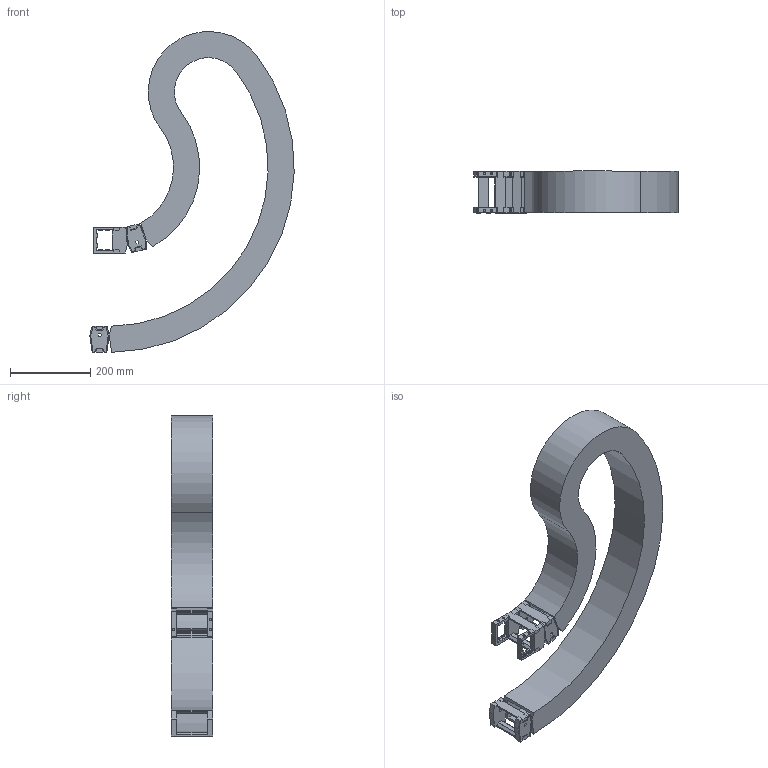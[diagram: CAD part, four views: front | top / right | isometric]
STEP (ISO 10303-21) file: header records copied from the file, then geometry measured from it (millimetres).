
FILE_DESCRIPTION( ( 'STEP AP214' ), '1' );
FILE_NAME( 'p:/temp/worker_35/temp/exporttempdir_1060_2138_cwbPR/format_0/RV048CRA10311116090300450-00752474.68352.stp', '2021-07-27T04:44:24', ( 'License CC BY-ND 4.0' ), ( 'CADENAS' ), ' ', 'PARTsolutions', ' ' );
FILE_SCHEMA( ( 'AUTOMOTIVE_DESIGN { 1 0 10303 214 1 1 1 1 }' ) );
Length unit declared in the file: millimetre
Products named in the file (4): RV048CRA10311116090300450-00752474.68352; _RV048CRA10311116090300450-00771501.283-Chain; _RV048CR-SU-48-75; _RV048CR_FB-103
Assembly tree (4 placements, depth 2):
  RV048CRA10311116090300450-00752474.68352
    _RV048CRA10311116090300450-00771501.283-Chain
    _RV048CR-SU-48-75  x2
    _RV048CR_FB-103
Bounding box: 507.79 x 103 x 796.98 mm (x, y, z)
Volume: 4617701.4 mm3; surface area: 1075462.3 mm2
Topology: 4 solids, 4 shells, 507 faces, 1482 edges, 980 vertices
Faces by surface type: plane 389, cylinder 118
Full cylindrical faces by diameter (mm): 6 x12
Entity records: 14298 total; most frequent: CARTESIAN_POINT 2024, ORIENTED_EDGE 2004, DIRECTION 1890, EDGE_CURVE 1002, LINE 822, VECTOR 822, VERTEX_POINT 668, AXIS2_PLACEMENT_3D 534
